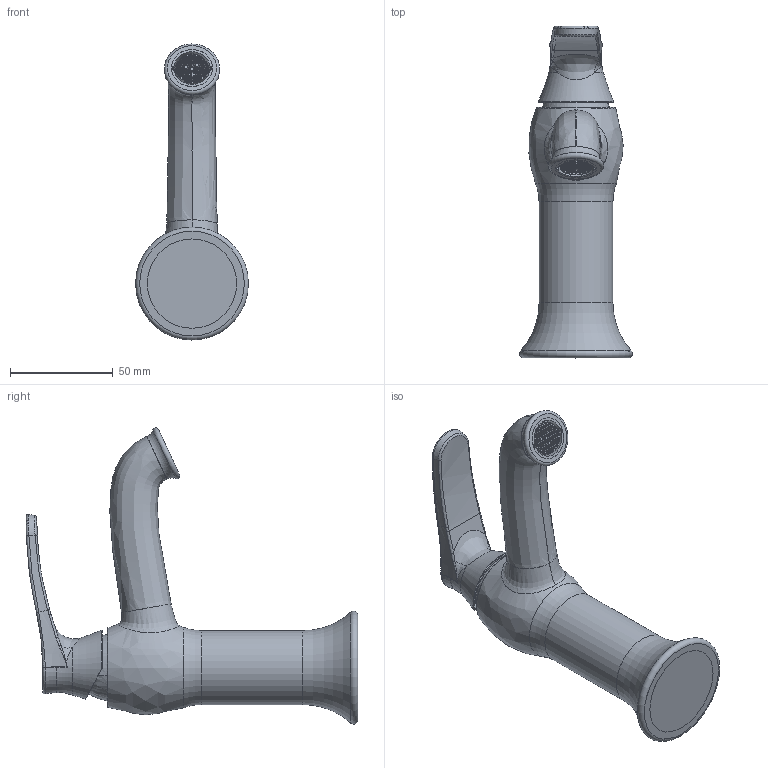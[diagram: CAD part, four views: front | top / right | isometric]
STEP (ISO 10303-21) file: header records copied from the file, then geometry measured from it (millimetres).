
FILE_DESCRIPTION(/* description */ (''),/* implementation_level */ '2;1');
FILE_NAME(/* name */ 'c:\worker\convert-fusion-r07\tmp\job-1\25\output\files\a02d342c-ae22-450e-a8a9-0a54371f0f65\8d67f135-d105-4191-984a-6d9cf0429dae.stp',/* time_stamp */ '2020-10-07T12:13:43+00:00',/* author */ (''),/* organization */ (''),/* preprocessor_version */ 'ST-DEVELOPER v18.1',/* originating_system */ 'Autodesk Translation Framework v9.3.0.1241',/* authorisation */ '');
FILE_SCHEMA (('AUTOMOTIVE_DESIGN { 1 0 10303 214 3 1 1 }'));
Products named in the file (1): !AD5110
Bounding box: 55.01 x 161.54 x 144.25 mm (x, y, z)
Volume: 19691.1 mm3; surface area: 66146.1 mm2
Topology: 7 solids, 8 shells, 3576 faces, 11168 edges, 7419 vertices
Faces by surface type: plane 3432, bspline 56, cylinder 54, torus 20, cone 14
Full cylindrical faces by diameter (mm): 2.5 x1, 5.2 x2, 6 x1, 11.3 x1, 12.8 x1, 14 x1, 14.5 x1, 14.8 x1, 15 x3, 15.2 x1, 16.4 x3, 16.5 x1, 17 x1, 17.4 x1, 17.5 x1, 18 x2, 19.9 x3, 19.914 x1, 36 x1, 36.02 x1, 43.5 x1, 51 x1
Entity records: 134136 total; most frequent: CARTESIAN_POINT 40664, ORIENTED_EDGE 22328, DIRECTION 16015, EDGE_CURVE 11164, VERTEX_POINT 7419, LINE 5435, VECTOR 5435, AXIS2_PLACEMENT_3D 5290
